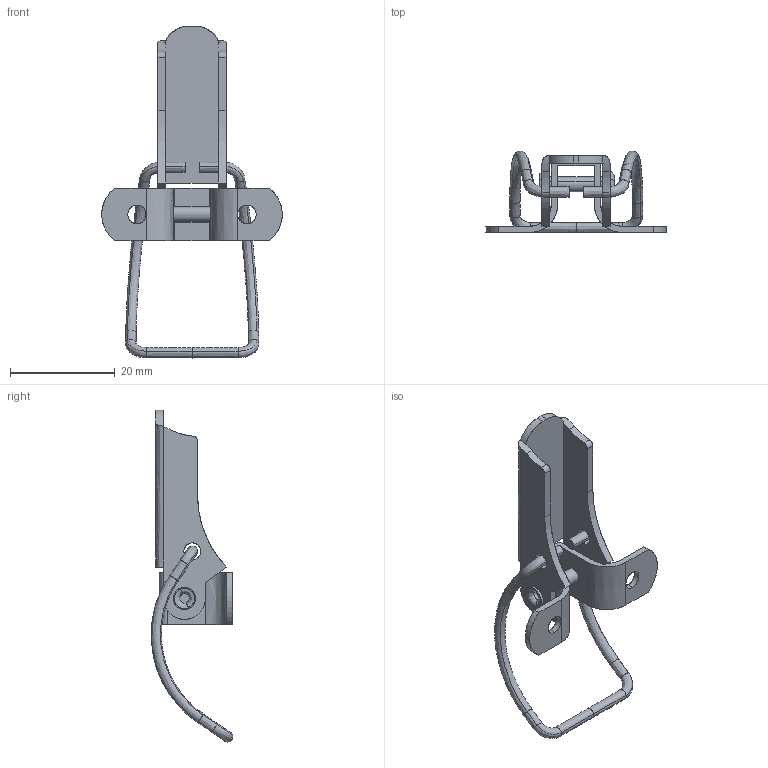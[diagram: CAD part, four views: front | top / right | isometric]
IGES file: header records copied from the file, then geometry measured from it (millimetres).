
Start section: SolidWorks IGES FILE using analytic representation for surfaces
Global section: file name: C:\WINNT\Profiles\cbrechard\Bureau\GE 571\GE 571.IGS; native system: SolidWorks 2001Plus by SolidWorks Corporation; preprocessor: Version 5.3; author: CBRECHARD; date: 050125.141439; units: millimetre
Bounding box: 34.5 x 15.62 x 63.43 mm (x, y, z)
Surface area: 4170.9 mm2 (no closed solid volume)
Topology: 0 solids, 0 shells, 113 faces, 1626 edges, 1622 vertices
Faces by surface type: bspline 67, revolution 46
